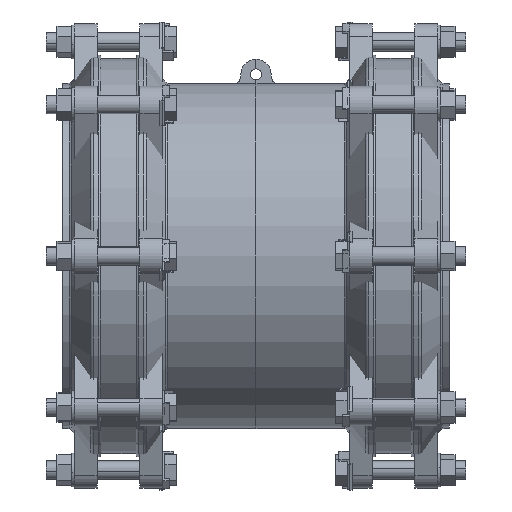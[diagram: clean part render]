
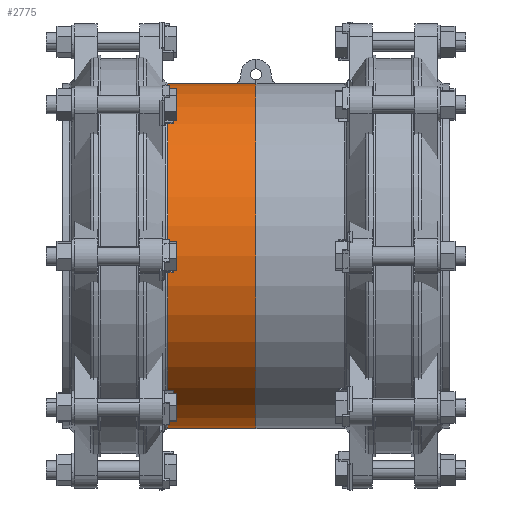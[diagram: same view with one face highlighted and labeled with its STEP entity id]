
A CAD part, front view. The second image highlights one B-rep face of the part: STEP entity #2775.
In plain terms, the highlighted cylindrical face has radius 189.5 mm (diameter 379 mm), a partial arc.
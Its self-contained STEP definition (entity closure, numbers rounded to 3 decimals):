
#2775=ADVANCED_FACE('',(#5635),#5636,.T.);
#5635=FACE_OUTER_BOUND('',#9143,.T.);
#5636=CYLINDRICAL_SURFACE('',#9144,189.5);
#9143=EDGE_LOOP('',(#14855,#14856,#14857,#14858,#14859));
#9144=AXIS2_PLACEMENT_3D('',#14860,#14861,#14862);
#14855=ORIENTED_EDGE('',*,*,#21426,.F.);
#14856=ORIENTED_EDGE('',*,*,#19972,.T.);
#14857=ORIENTED_EDGE('',*,*,#20043,.T.);
#14858=ORIENTED_EDGE('',*,*,#21427,.F.);
#14859=ORIENTED_EDGE('',*,*,#21428,.F.);
#14860=CARTESIAN_POINT('',(295.64,-687.637,397.007));
#14861=DIRECTION('',(1.0,0.,0.));
#14862=DIRECTION('',(0.,0.,1.0));
#19972=EDGE_CURVE('',#23829,#23827,#23830,.T.);
#20043=EDGE_CURVE('',#23827,#23943,#23945,.T.);
#21426=EDGE_CURVE('',#23829,#26051,#26052,.T.);
#21427=EDGE_CURVE('',#26053,#23943,#26054,.T.);
#21428=EDGE_CURVE('',#26051,#26053,#26055,.T.);
#23827=VERTEX_POINT('',#29103);
#23829=VERTEX_POINT('',#29105);
#23830=CIRCLE('',#29106,189.5);
#23943=VERTEX_POINT('',#29262);
#23945=CIRCLE('',#29264,189.5);
#26051=VERTEX_POINT('',#32118);
#26052=LINE('',#32119,#32120);
#26053=VERTEX_POINT('',#32121);
#26054=LINE('',#32122,#32123);
#26055=CIRCLE('',#32124,189.5);
#29103=CARTESIAN_POINT('',(247.28,-877.137,397.007));
#29105=CARTESIAN_POINT('',(247.28,-687.637,586.507));
#29106=AXIS2_PLACEMENT_3D('',#34829,#34830,#34831);
#29262=CARTESIAN_POINT('',(247.28,-687.637,207.507));
#29264=AXIS2_PLACEMENT_3D('',#34914,#34915,#34916);
#32118=CARTESIAN_POINT('',(344.,-687.637,586.507));
#32119=CARTESIAN_POINT('',(295.64,-687.637,586.507));
#32120=VECTOR('',#36499,1.0);
#32121=CARTESIAN_POINT('',(344.,-687.637,207.507));
#32122=CARTESIAN_POINT('',(295.64,-687.637,207.507));
#32123=VECTOR('',#36500,1.0);
#32124=AXIS2_PLACEMENT_3D('',#36501,#36502,#36503);
#34829=CARTESIAN_POINT('',(247.28,-687.637,397.007));
#34830=DIRECTION('',(1.0,0.,0.));
#34831=DIRECTION('',(0.,0.,1.0));
#34914=CARTESIAN_POINT('',(247.28,-687.637,397.007));
#34915=DIRECTION('',(1.0,0.,0.));
#34916=DIRECTION('',(0.,0.,1.0));
#36499=DIRECTION('',(1.0,0.,0.));
#36500=DIRECTION('',(-1.0,0.,0.));
#36501=CARTESIAN_POINT('',(344.,-687.637,397.007));
#36502=DIRECTION('',(1.0,0.,0.));
#36503=DIRECTION('',(0.,0.,1.0));
